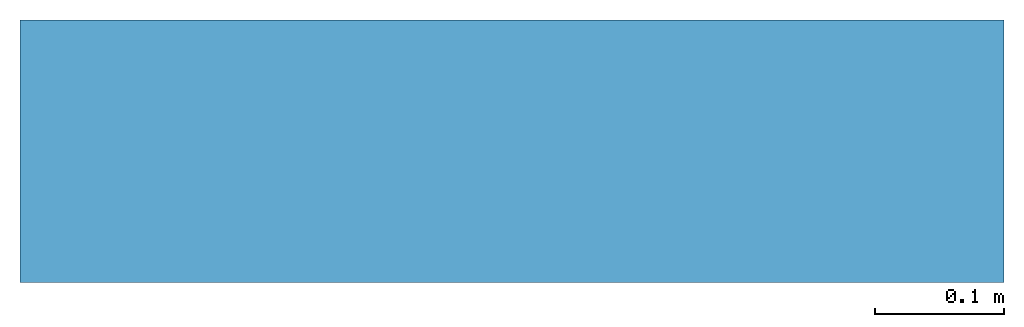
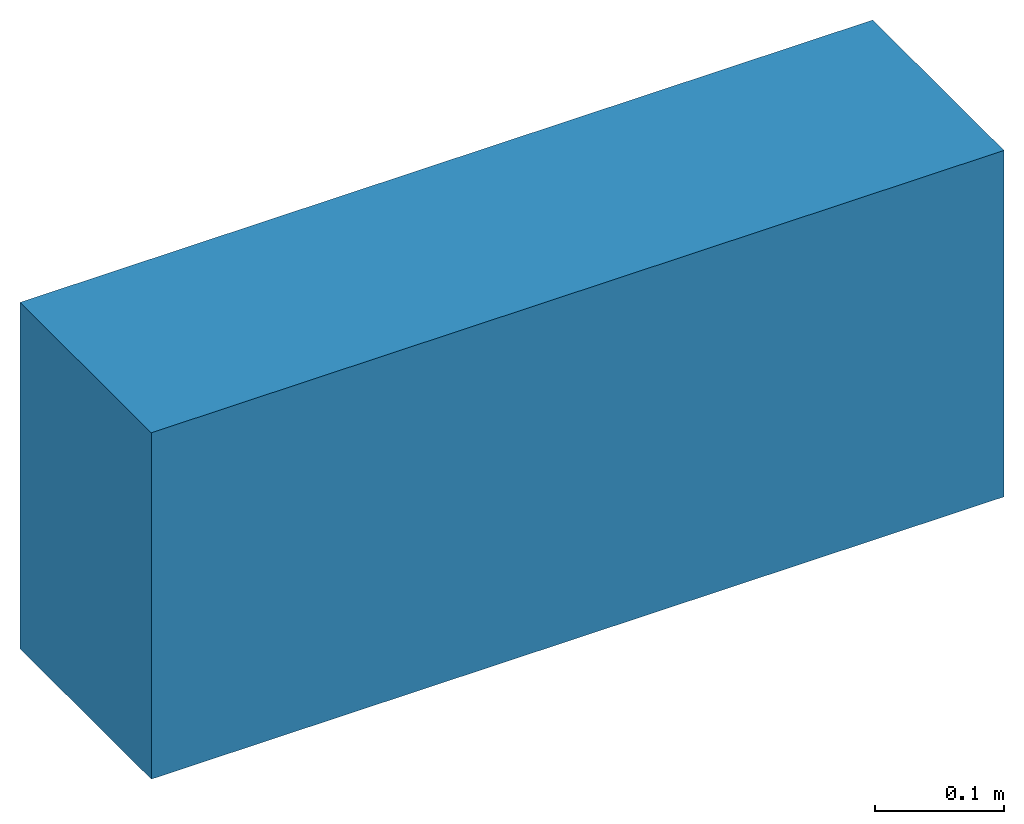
# One storey: 1 wall.
"""IFC2X3 building model written with IfcOpenShell, lengths in feet."""

from ifc_helpers import new_model, entity, si_unit, converted_unit, derived_unit, direction, frame, frame_2d, origin, place, context, subcontext, project, spatial, rectangle, extrude, material, layer, layer_set, layer_usage, type_object, element, save


model = new_model("IFC2X3")

# Units and contexts
model_context = context("Model", 3, precision=0.0001, world=origin(), true_north=direction((6.12303176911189e-17, 1.0)))
body_context = subcontext(model_context, "Body", "Model", "MODEL_VIEW")
ifc_project = project(units=[converted_unit("LENGTHUNIT", "FOOT", entity("IfcRatioMeasure", 0.3048), si_unit("LENGTHUNIT", "METRE"), dimensions=[1, 0, 0, 0, 0, 0, 0]), converted_unit("AREAUNIT", "SQUARE FOOT", entity("IfcRatioMeasure", 0.09290304), si_unit("AREAUNIT", "SQUARE_METRE"), dimensions=[2, 0, 0, 0, 0, 0, 0]), converted_unit("VOLUMEUNIT", "CUBIC FOOT", entity("IfcRatioMeasure", 0.028316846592), si_unit("VOLUMEUNIT", "CUBIC_METRE"), dimensions=[3, 0, 0, 0, 0, 0, 0]), converted_unit("PLANEANGLEUNIT", "DEGREE", entity("IfcRatioMeasure", 0.0174532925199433), si_unit("PLANEANGLEUNIT", "RADIAN"), dimensions=[0, 0, 0, 0, 0, 0, 0]), si_unit("MASSUNIT", "GRAM", prefix="KILO"), derived_unit("MASSDENSITYUNIT", [(si_unit("MASSUNIT", "GRAM", prefix="KILO"), 1), (si_unit("LENGTHUNIT", "METRE"), -3)]), si_unit("TIMEUNIT", "SECOND"), si_unit("FREQUENCYUNIT", "HERTZ"), si_unit("THERMODYNAMICTEMPERATUREUNIT", "DEGREE_CELSIUS"), derived_unit("THERMALTRANSMITTANCEUNIT", [(si_unit("MASSUNIT", "GRAM", prefix="KILO"), 1), (si_unit("THERMODYNAMICTEMPERATUREUNIT", "KELVIN"), -1), (si_unit("TIMEUNIT", "SECOND"), -3)]), derived_unit("VOLUMETRICFLOWRATEUNIT", [(si_unit("LENGTHUNIT", "METRE"), 3), (si_unit("TIMEUNIT", "SECOND"), -1)]), si_unit("ELECTRICCURRENTUNIT", "AMPERE"), si_unit("ELECTRICVOLTAGEUNIT", "VOLT"), si_unit("POWERUNIT", "WATT"), si_unit("FORCEUNIT", "NEWTON"), si_unit("ILLUMINANCEUNIT", "LUX"), si_unit("LUMINOUSFLUXUNIT", "LUMEN"), si_unit("LUMINOUSINTENSITYUNIT", "CANDELA"), derived_unit("USERDEFINED", [(si_unit("MASSUNIT", "GRAM", prefix="KILO"), -1), (si_unit("LENGTHUNIT", "METRE"), -2), (si_unit("TIMEUNIT", "SECOND"), 3), (si_unit("LUMINOUSFLUXUNIT", "LUMEN"), 1)]), derived_unit("LINEARVELOCITYUNIT", [(si_unit("LENGTHUNIT", "METRE"), 1), (si_unit("TIMEUNIT", "SECOND"), -1)]), si_unit("PRESSUREUNIT", "PASCAL"), derived_unit("USERDEFINED", [(si_unit("LENGTHUNIT", "METRE"), -2), (si_unit("MASSUNIT", "GRAM", prefix="KILO"), 1), (si_unit("TIMEUNIT", "SECOND"), -2)])], contexts=[model_context])

# Site, building, storey
site_placement = place(None, origin())
site = spatial("IfcSite", under=ifc_project, at=site_placement, Name="Default", CompositionType="ELEMENT")
building_placement = place(site_placement, origin())
building = spatial("IfcBuilding", under=site, at=building_placement, CompositionType="ELEMENT")
storey_placement = place(building_placement, origin())
storey = spatial("IfcBuildingStorey", under=building, at=storey_placement, Name="Level 1", CompositionType="ELEMENT", Elevation=0.0)

# Wall
ifc_material = material(Name="Default Wall")
ifc_layer = layer(ifc_material, 0.666666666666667)
ifc_layer_set = layer_set([ifc_layer], Name="Basic Wall:Generic - 8\"")
ifc_layer_usage = layer_usage(ifc_layer_set, "AXIS2", "NEGATIVE", 0.333333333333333)
wall_type = type_object("IfcWallType", Name="Basic Wall:Generic - 8\"", PredefinedType="STANDARD", material=ifc_layer_set)
wall_placement = place(storey_placement, frame((-15.1991876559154, 6.3914049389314, 5.83810313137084)))
element("IfcWallStandardCase", 1, at=wall_placement, inside=storey, type_object=wall_type, material=ifc_layer_usage, Name="Basic Wall:Generic - 8\"", ObjectType="Basic Wall:Generic - 8\"", context=body_context, shape_type="SweptSolid", body=[
    extrude(rectangle(XDim=2.5, YDim=0.666666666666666, at=frame_2d((1.25, 5.55111512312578e-17), x_axis=(-1.0, 0.0))), origin(), (0.0, 0.0, 1.0), 1.07376271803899),
])

save(model, "model.ifc")
